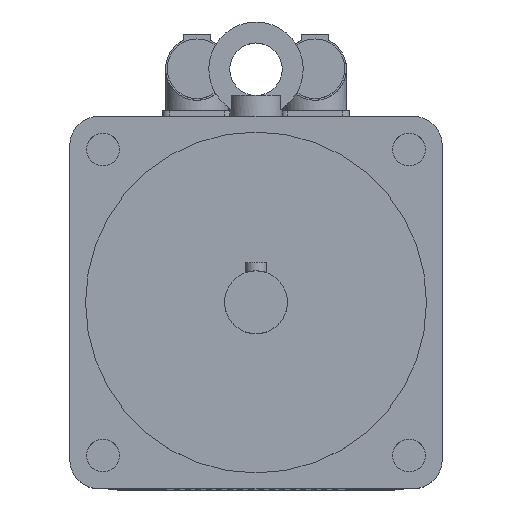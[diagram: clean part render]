
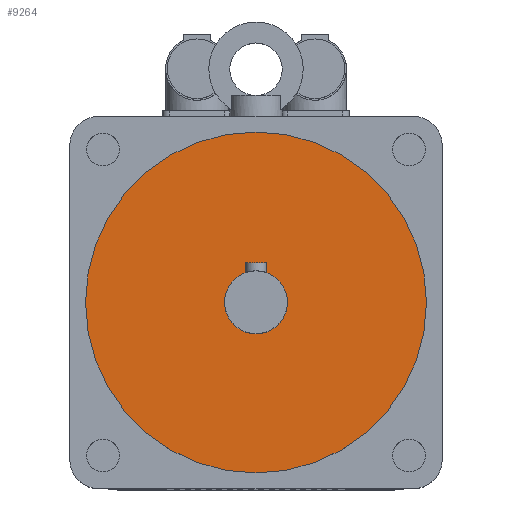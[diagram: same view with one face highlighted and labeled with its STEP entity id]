
A CAD part, top view. The second image highlights one B-rep face of the part: STEP entity #9264.
In plain terms, the highlighted planar face has unit normal (0, 0, 1).
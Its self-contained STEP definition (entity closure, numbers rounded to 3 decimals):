
#107=FACE_BOUND('',#909,.T.);
#283=FACE_OUTER_BOUND('',#908,.T.);
#908=EDGE_LOOP('',(#6623));
#909=EDGE_LOOP('',(#6624));
#1470=CIRCLE('',#9861,12.);
#1471=CIRCLE('',#9863,65.);
#4215=VERTEX_POINT('',#14403);
#4216=VERTEX_POINT('',#14406);
#5156=EDGE_CURVE('',#4215,#4215,#1470,.T.);
#5157=EDGE_CURVE('',#4216,#4216,#1471,.T.);
#6623=ORIENTED_EDGE('',*,*,#5157,.F.);
#6624=ORIENTED_EDGE('',*,*,#5156,.T.);
#8816=PLANE('',#9862);
#9264=ADVANCED_FACE('',(#283,#107),#8816,.T.);
#9861=AXIS2_PLACEMENT_3D('',#14404,#11242,#11243);
#9862=AXIS2_PLACEMENT_3D('',#14405,#11244,#11245);
#9863=AXIS2_PLACEMENT_3D('',#14407,#11246,#11247);
#11242=DIRECTION('center_axis',(0.,0.,-1.));
#11243=DIRECTION('ref_axis',(1.,0.,0.));
#11244=DIRECTION('center_axis',(0.,0.,1.));
#11245=DIRECTION('ref_axis',(1.,0.,0.));
#11246=DIRECTION('center_axis',(0.,0.,-1.));
#11247=DIRECTION('ref_axis',(1.,0.,0.));
#14403=CARTESIAN_POINT('',(0.,12.,242.));
#14404=CARTESIAN_POINT('Origin',(0.,0.,242.));
#14405=CARTESIAN_POINT('Origin',(0.,65.,242.));
#14406=CARTESIAN_POINT('',(0.,65.,242.));
#14407=CARTESIAN_POINT('Origin',(0.,0.,242.));
